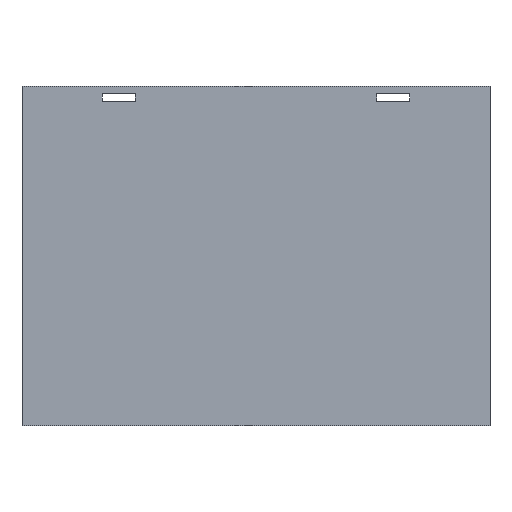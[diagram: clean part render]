
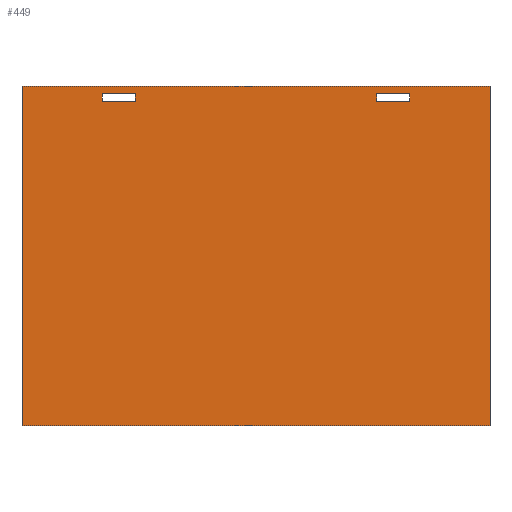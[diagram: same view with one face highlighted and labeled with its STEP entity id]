
A CAD part, top view. The second image highlights one B-rep face of the part: STEP entity #449.
In plain terms, the highlighted planar face has unit normal (0, 0, 1).
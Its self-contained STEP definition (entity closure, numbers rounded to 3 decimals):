
#10 = DIRECTION ( 'NONE',  ( 0., 1., 0. ) ) ;
#16 = VECTOR ( 'NONE', #433, 1000. ) ;
#17 = VERTEX_POINT ( 'NONE', #97 ) ;
#31 = VERTEX_POINT ( 'NONE', #420 ) ;
#36 = LINE ( 'NONE', #427, #429 ) ;
#40 = CARTESIAN_POINT ( 'NONE',  ( -155., -112.5, 0.5 ) ) ;
#46 = ORIENTED_EDGE ( 'NONE', *, *, #224, .T. ) ;
#56 = VERTEX_POINT ( 'NONE', #263 ) ;
#60 = AXIS2_PLACEMENT_3D ( 'NONE', #359, #403, #242 ) ;
#61 = VECTOR ( 'NONE', #109, 1000. ) ;
#64 = DIRECTION ( 'NONE',  ( -1., 0., 0. ) ) ;
#67 = VERTEX_POINT ( 'NONE', #176 ) ;
#74 = VERTEX_POINT ( 'NONE', #221 ) ;
#86 = VERTEX_POINT ( 'NONE', #419 ) ;
#87 = DIRECTION ( 'NONE',  ( -1., 0., 0. ) ) ;
#93 = EDGE_CURVE ( 'NONE', #305, #247, #36, .T. ) ;
#96 = VECTOR ( 'NONE', #228, 1000. ) ;
#97 = CARTESIAN_POINT ( 'NONE',  ( 102., 107.5, 0.5 ) ) ;
#99 = VERTEX_POINT ( 'NONE', #314 ) ;
#104 = VECTOR ( 'NONE', #351, 1000. ) ;
#106 = ORIENTED_EDGE ( 'NONE', *, *, #432, .T. ) ;
#107 = CARTESIAN_POINT ( 'NONE',  ( -155., 112.5, 0.5 ) ) ;
#109 = DIRECTION ( 'NONE',  ( 1., 0., 0. ) ) ;
#110 = VECTOR ( 'NONE', #10, 1000. ) ;
#111 = ORIENTED_EDGE ( 'NONE', *, *, #288, .T. ) ;
#113 = CARTESIAN_POINT ( 'NONE',  ( 80., 102.5, 0.5 ) ) ;
#115 = EDGE_CURVE ( 'NONE', #17, #305, #120, .T. ) ;
#117 = CARTESIAN_POINT ( 'NONE',  ( -80., 102.5, 0.5 ) ) ;
#120 = LINE ( 'NONE', #382, #165 ) ;
#137 = ORIENTED_EDGE ( 'NONE', *, *, #461, .T. ) ;
#144 = DIRECTION ( 'NONE',  ( 1., 0., 0. ) ) ;
#147 = CARTESIAN_POINT ( 'NONE',  ( 102., 102.5, 0.5 ) ) ;
#148 = CARTESIAN_POINT ( 'NONE',  ( -80., 107.5, 0.5 ) ) ;
#152 = EDGE_CURVE ( 'NONE', #172, #17, #434, .T. ) ;
#155 = CARTESIAN_POINT ( 'NONE',  ( -102., 107.5, 0.5 ) ) ;
#157 = EDGE_CURVE ( 'NONE', #67, #74, #484, .T. ) ;
#163 = CARTESIAN_POINT ( 'NONE',  ( -155., -112.5, 0.5 ) ) ;
#164 = FACE_BOUND ( 'NONE', #199, .T. ) ;
#165 = VECTOR ( 'NONE', #64, 1000. ) ;
#171 = LINE ( 'NONE', #163, #104 ) ;
#172 = VERTEX_POINT ( 'NONE', #147 ) ;
#173 = VERTEX_POINT ( 'NONE', #385 ) ;
#176 = CARTESIAN_POINT ( 'NONE',  ( -102., 107.5, 0.5 ) ) ;
#179 = ORIENTED_EDGE ( 'NONE', *, *, #279, .T. ) ;
#199 = EDGE_LOOP ( 'NONE', ( #330, #237, #348, #471 ) ) ;
#201 = CARTESIAN_POINT ( 'NONE',  ( 155., -112.5, 0.5 ) ) ;
#209 = VECTOR ( 'NONE', #307, 1000. ) ;
#219 = LINE ( 'NONE', #113, #61 ) ;
#221 = CARTESIAN_POINT ( 'NONE',  ( -80., 107.5, 0.5 ) ) ;
#224 = EDGE_CURVE ( 'NONE', #99, #86, #374, .T. ) ;
#226 = LINE ( 'NONE', #40, #16 ) ;
#227 = EDGE_LOOP ( 'NONE', ( #292, #46, #179, #106 ) ) ;
#228 = DIRECTION ( 'NONE',  ( -1., 0., 0. ) ) ;
#236 = LINE ( 'NONE', #201, #110 ) ;
#237 = ORIENTED_EDGE ( 'NONE', *, *, #93, .F. ) ;
#238 = CARTESIAN_POINT ( 'NONE',  ( 80., 102.5, 0.5 ) ) ;
#242 = DIRECTION ( 'NONE',  ( -1., 0., 0. ) ) ;
#244 = FACE_OUTER_BOUND ( 'NONE', #227, .T. ) ;
#247 = VERTEX_POINT ( 'NONE', #238 ) ;
#262 = VERTEX_POINT ( 'NONE', #316 ) ;
#263 = CARTESIAN_POINT ( 'NONE',  ( 155., -112.5, 0.5 ) ) ;
#264 = EDGE_CURVE ( 'NONE', #247, #172, #219, .T. ) ;
#273 = CARTESIAN_POINT ( 'NONE',  ( 102., 107.5, 0.5 ) ) ;
#278 = CARTESIAN_POINT ( 'NONE',  ( 80., 107.5, 0.5 ) ) ;
#279 = EDGE_CURVE ( 'NONE', #86, #31, #226, .T. ) ;
#281 = LINE ( 'NONE', #155, #373 ) ;
#286 = DIRECTION ( 'NONE',  ( 0., 1., 0. ) ) ;
#288 = EDGE_CURVE ( 'NONE', #74, #173, #509, .T. ) ;
#292 = ORIENTED_EDGE ( 'NONE', *, *, #313, .T. ) ;
#305 = VERTEX_POINT ( 'NONE', #278 ) ;
#307 = DIRECTION ( 'NONE',  ( 0., 1., 0. ) ) ;
#313 = EDGE_CURVE ( 'NONE', #56, #99, #236, .T. ) ;
#314 = CARTESIAN_POINT ( 'NONE',  ( 155., 112.5, 0.5 ) ) ;
#316 = CARTESIAN_POINT ( 'NONE',  ( -102., 102.5, 0.5 ) ) ;
#324 = ORIENTED_EDGE ( 'NONE', *, *, #157, .T. ) ;
#330 = ORIENTED_EDGE ( 'NONE', *, *, #264, .F. ) ;
#336 = VECTOR ( 'NONE', #388, 1000. ) ;
#348 = ORIENTED_EDGE ( 'NONE', *, *, #115, .F. ) ;
#351 = DIRECTION ( 'NONE',  ( 1., 0., 0. ) ) ;
#359 = CARTESIAN_POINT ( 'NONE',  ( 0., 0., 0.5 ) ) ;
#373 = VECTOR ( 'NONE', #286, 1000. ) ;
#374 = LINE ( 'NONE', #107, #96 ) ;
#382 = CARTESIAN_POINT ( 'NONE',  ( 80., 107.5, 0.5 ) ) ;
#385 = CARTESIAN_POINT ( 'NONE',  ( -80., 102.5, 0.5 ) ) ;
#388 = DIRECTION ( 'NONE',  ( 0., -1., 0. ) ) ;
#403 = DIRECTION ( 'NONE',  ( 0., 0., -1. ) ) ;
#413 = ORIENTED_EDGE ( 'NONE', *, *, #450, .T. ) ;
#419 = CARTESIAN_POINT ( 'NONE',  ( -155., 112.5, 0.5 ) ) ;
#420 = CARTESIAN_POINT ( 'NONE',  ( -155., -112.5, 0.5 ) ) ;
#422 = EDGE_LOOP ( 'NONE', ( #111, #413, #137, #324 ) ) ;
#427 = CARTESIAN_POINT ( 'NONE',  ( 80., 107.5, 0.5 ) ) ;
#428 = VECTOR ( 'NONE', #87, 1000. ) ;
#429 = VECTOR ( 'NONE', #467, 1000. ) ;
#432 = EDGE_CURVE ( 'NONE', #31, #56, #171, .T. ) ;
#433 = DIRECTION ( 'NONE',  ( 0., -1., 0. ) ) ;
#434 = LINE ( 'NONE', #273, #209 ) ;
#449 = ADVANCED_FACE ( 'NONE', ( #244, #164, #502 ), #486, .F. ) ;
#450 = EDGE_CURVE ( 'NONE', #173, #262, #490, .T. ) ;
#461 = EDGE_CURVE ( 'NONE', #262, #67, #281, .T. ) ;
#467 = DIRECTION ( 'NONE',  ( 0., -1., 0. ) ) ;
#471 = ORIENTED_EDGE ( 'NONE', *, *, #152, .F. ) ;
#478 = CARTESIAN_POINT ( 'NONE',  ( -80., 107.5, 0.5 ) ) ;
#484 = LINE ( 'NONE', #148, #496 ) ;
#486 = PLANE ( 'NONE',  #60 ) ;
#490 = LINE ( 'NONE', #117, #428 ) ;
#496 = VECTOR ( 'NONE', #144, 1000. ) ;
#502 = FACE_BOUND ( 'NONE', #422, .T. ) ;
#509 = LINE ( 'NONE', #478, #336 ) ;
